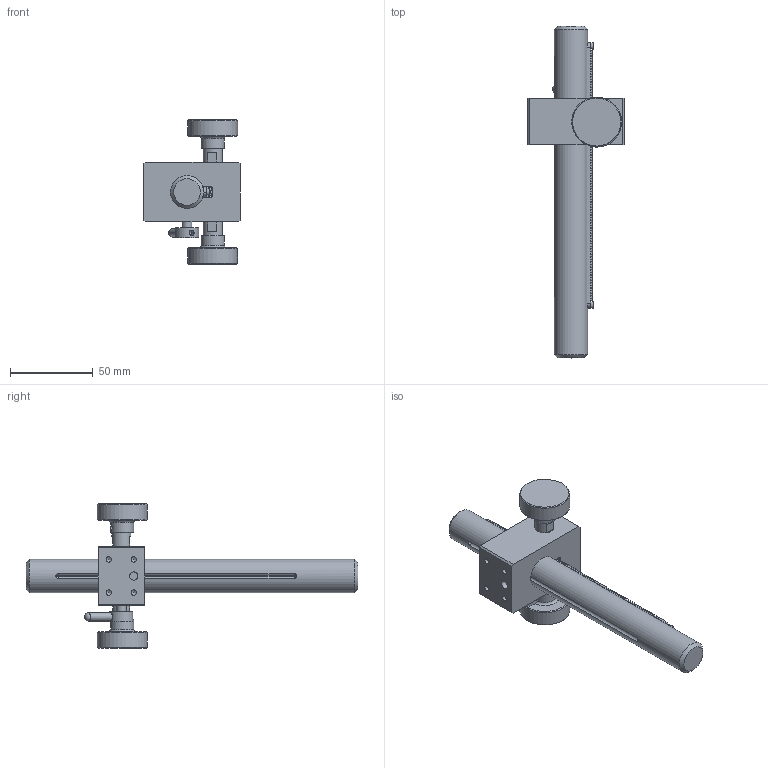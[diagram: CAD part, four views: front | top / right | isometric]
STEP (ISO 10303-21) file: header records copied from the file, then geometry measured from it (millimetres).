
FILE_DESCRIPTION (( 'STEP AP203' ), '1' );
FILE_NAME ('BZK200.STEP', '2024-08-06T01:26:29', ( 'Windows User' ), ( 'P R C' ), 'SwSTEP 2.0', 'SolidWorks 2024', '' );
FILE_SCHEMA (( 'CONFIG_CONTROL_DESIGN' ));
Products named in the file (1): BZK200
Bounding box: 58 x 200 x 87 mm (x, y, z)
Volume: 130805.1 mm3; surface area: 43309.4 mm2
Topology: 15 solids, 15 shells, 677 faces, 1873 edges, 1229 vertices
Faces by surface type: plane 509, cylinder 92, cone 33, bspline 33, sphere 6, torus 4
Full cylindrical faces by diameter (mm): 1.6 x3, 2 x2, 2.3 x2, 2.4 x1, 2.5 x4, 3 x1, 3.3 x7, 3.8 x2, 4 x1, 4.3 x1, 5 x3, 5.3 x1, 5.5 x1, 6 x1, 7 x5, 7.8 x2, 11.5 x2, 12.2 x2, 14 x3, 20 x1, 30 x2
Entity records: 131644 total; most frequent: CARTESIAN_POINT 115272, ORIENTED_EDGE 3482, DIRECTION 3057, EDGE_CURVE 1741, LINE 1355, VECTOR 1355, VERTEX_POINT 1192, AXIS2_PLACEMENT_3D 851
